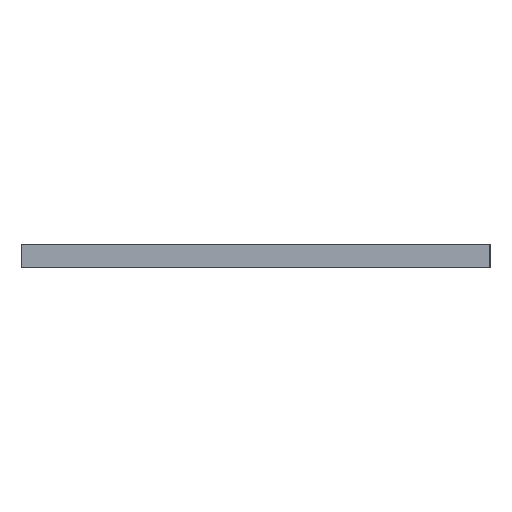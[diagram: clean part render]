
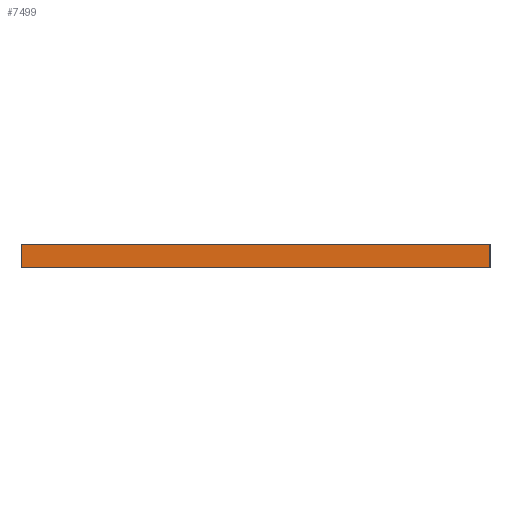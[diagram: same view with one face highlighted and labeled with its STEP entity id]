
A CAD part, left-side view. The second image highlights one B-rep face of the part: STEP entity #7499.
In plain terms, the highlighted planar face has unit normal (-1, 0, 0).
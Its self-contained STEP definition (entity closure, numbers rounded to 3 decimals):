
#55 = PLANE('',#56);
#56 = AXIS2_PLACEMENT_3D('',#57,#58,#59);
#57 = CARTESIAN_POINT('',(18.415,10.795,0.));
#58 = DIRECTION('',(0.,1.,0.));
#59 = DIRECTION('',(1.,0.,0.));
#83 = PLANE('',#84);
#84 = AXIS2_PLACEMENT_3D('',#85,#86,#87);
#85 = CARTESIAN_POINT('',(116.53,-5.08,1.6));
#86 = DIRECTION('',(-0.,-0.,-1.));
#87 = DIRECTION('',(-1.,0.,0.));
#111 = PLANE('',#112);
#112 = AXIS2_PLACEMENT_3D('',#113,#114,#115);
#113 = CARTESIAN_POINT('',(214.645,-20.955,0.));
#114 = DIRECTION('',(0.,-1.,0.));
#115 = DIRECTION('',(-1.,0.,0.));
#137 = PLANE('',#138);
#138 = AXIS2_PLACEMENT_3D('',#139,#140,#141);
#139 = CARTESIAN_POINT('',(116.53,-5.08,0.));
#140 = DIRECTION('',(-0.,-0.,-1.));
#141 = DIRECTION('',(-1.,0.,0.));
#152 = EDGE_CURVE('',#153,#155,#157,.T.);
#153 = VERTEX_POINT('',#154);
#154 = CARTESIAN_POINT('',(18.415,10.795,0.));
#155 = VERTEX_POINT('',#156);
#156 = CARTESIAN_POINT('',(18.415,10.795,1.6));
#157 = SURFACE_CURVE('',#158,(#162,#169),.PCURVE_S1.);
#158 = LINE('',#159,#160);
#159 = CARTESIAN_POINT('',(18.415,10.795,0.));
#160 = VECTOR('',#161,1.);
#161 = DIRECTION('',(0.,0.,1.));
#162 = PCURVE('',#55,#163);
#163 = DEFINITIONAL_REPRESENTATION('',(#164),#168);
#164 = LINE('',#165,#166);
#165 = CARTESIAN_POINT('',(0.,0.));
#166 = VECTOR('',#167,1.);
#167 = DIRECTION('',(0.,-1.));
#168 = ( GEOMETRIC_REPRESENTATION_CONTEXT(2) 
PARAMETRIC_REPRESENTATION_CONTEXT() REPRESENTATION_CONTEXT('2D SPACE',''
  ) );
#169 = PCURVE('',#170,#175);
#170 = PLANE('',#171);
#171 = AXIS2_PLACEMENT_3D('',#172,#173,#174);
#172 = CARTESIAN_POINT('',(18.415,-20.955,0.));
#173 = DIRECTION('',(-1.,0.,0.));
#174 = DIRECTION('',(0.,1.,0.));
#175 = DEFINITIONAL_REPRESENTATION('',(#176),#180);
#176 = LINE('',#177,#178);
#177 = CARTESIAN_POINT('',(31.75,0.));
#178 = VECTOR('',#179,1.);
#179 = DIRECTION('',(0.,-1.));
#180 = ( GEOMETRIC_REPRESENTATION_CONTEXT(2) 
PARAMETRIC_REPRESENTATION_CONTEXT() REPRESENTATION_CONTEXT('2D SPACE',''
  ) );
#230 = VERTEX_POINT('',#231);
#231 = CARTESIAN_POINT('',(18.415,-20.955,1.6));
#252 = EDGE_CURVE('',#253,#230,#255,.T.);
#253 = VERTEX_POINT('',#254);
#254 = CARTESIAN_POINT('',(18.415,-20.955,0.));
#255 = SURFACE_CURVE('',#256,(#260,#267),.PCURVE_S1.);
#256 = LINE('',#257,#258);
#257 = CARTESIAN_POINT('',(18.415,-20.955,0.));
#258 = VECTOR('',#259,1.);
#259 = DIRECTION('',(0.,0.,1.));
#260 = PCURVE('',#111,#261);
#261 = DEFINITIONAL_REPRESENTATION('',(#262),#266);
#262 = LINE('',#263,#264);
#263 = CARTESIAN_POINT('',(196.23,0.));
#264 = VECTOR('',#265,1.);
#265 = DIRECTION('',(0.,-1.));
#266 = ( GEOMETRIC_REPRESENTATION_CONTEXT(2) 
PARAMETRIC_REPRESENTATION_CONTEXT() REPRESENTATION_CONTEXT('2D SPACE',''
  ) );
#267 = PCURVE('',#170,#268);
#268 = DEFINITIONAL_REPRESENTATION('',(#269),#273);
#269 = LINE('',#270,#271);
#270 = CARTESIAN_POINT('',(0.,0.));
#271 = VECTOR('',#272,1.);
#272 = DIRECTION('',(0.,-1.));
#273 = ( GEOMETRIC_REPRESENTATION_CONTEXT(2) 
PARAMETRIC_REPRESENTATION_CONTEXT() REPRESENTATION_CONTEXT('2D SPACE',''
  ) );
#301 = EDGE_CURVE('',#253,#153,#302,.T.);
#302 = SURFACE_CURVE('',#303,(#307,#314),.PCURVE_S1.);
#303 = LINE('',#304,#305);
#304 = CARTESIAN_POINT('',(18.415,-20.955,0.));
#305 = VECTOR('',#306,1.);
#306 = DIRECTION('',(0.,1.,0.));
#307 = PCURVE('',#137,#308);
#308 = DEFINITIONAL_REPRESENTATION('',(#309),#313);
#309 = LINE('',#310,#311);
#310 = CARTESIAN_POINT('',(98.115,-15.875));
#311 = VECTOR('',#312,1.);
#312 = DIRECTION('',(0.,1.));
#313 = ( GEOMETRIC_REPRESENTATION_CONTEXT(2) 
PARAMETRIC_REPRESENTATION_CONTEXT() REPRESENTATION_CONTEXT('2D SPACE',''
  ) );
#314 = PCURVE('',#170,#315);
#315 = DEFINITIONAL_REPRESENTATION('',(#316),#320);
#316 = LINE('',#317,#318);
#317 = CARTESIAN_POINT('',(0.,0.));
#318 = VECTOR('',#319,1.);
#319 = DIRECTION('',(1.,0.));
#320 = ( GEOMETRIC_REPRESENTATION_CONTEXT(2) 
PARAMETRIC_REPRESENTATION_CONTEXT() REPRESENTATION_CONTEXT('2D SPACE',''
  ) );
#4178 = EDGE_CURVE('',#230,#155,#4179,.T.);
#4179 = SURFACE_CURVE('',#4180,(#4184,#4191),.PCURVE_S1.);
#4180 = LINE('',#4181,#4182);
#4181 = CARTESIAN_POINT('',(18.415,-20.955,1.6));
#4182 = VECTOR('',#4183,1.);
#4183 = DIRECTION('',(0.,1.,0.));
#4184 = PCURVE('',#83,#4185);
#4185 = DEFINITIONAL_REPRESENTATION('',(#4186),#4190);
#4186 = LINE('',#4187,#4188);
#4187 = CARTESIAN_POINT('',(98.115,-15.875));
#4188 = VECTOR('',#4189,1.);
#4189 = DIRECTION('',(0.,1.));
#4190 = ( GEOMETRIC_REPRESENTATION_CONTEXT(2) 
PARAMETRIC_REPRESENTATION_CONTEXT() REPRESENTATION_CONTEXT('2D SPACE',''
  ) );
#4191 = PCURVE('',#170,#4192);
#4192 = DEFINITIONAL_REPRESENTATION('',(#4193),#4197);
#4193 = LINE('',#4194,#4195);
#4194 = CARTESIAN_POINT('',(0.,-1.6));
#4195 = VECTOR('',#4196,1.);
#4196 = DIRECTION('',(1.,0.));
#4197 = ( GEOMETRIC_REPRESENTATION_CONTEXT(2) 
PARAMETRIC_REPRESENTATION_CONTEXT() REPRESENTATION_CONTEXT('2D SPACE',''
  ) );
#7499 = ADVANCED_FACE('',(#7500),#170,.T.);
#7500 = FACE_BOUND('',#7501,.T.);
#7501 = EDGE_LOOP('',(#7502,#7503,#7504,#7505));
#7502 = ORIENTED_EDGE('',*,*,#252,.T.);
#7503 = ORIENTED_EDGE('',*,*,#4178,.T.);
#7504 = ORIENTED_EDGE('',*,*,#152,.F.);
#7505 = ORIENTED_EDGE('',*,*,#301,.F.);
